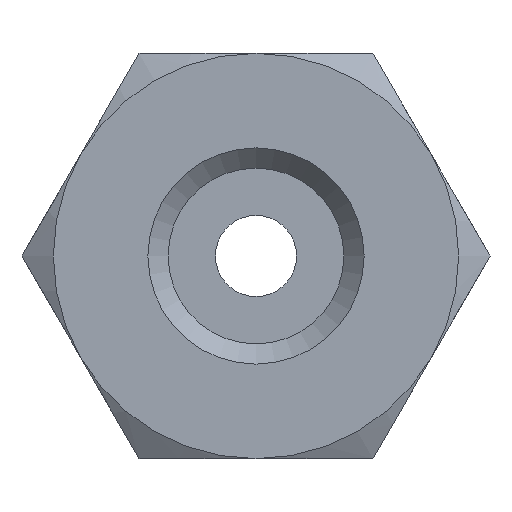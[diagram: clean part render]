
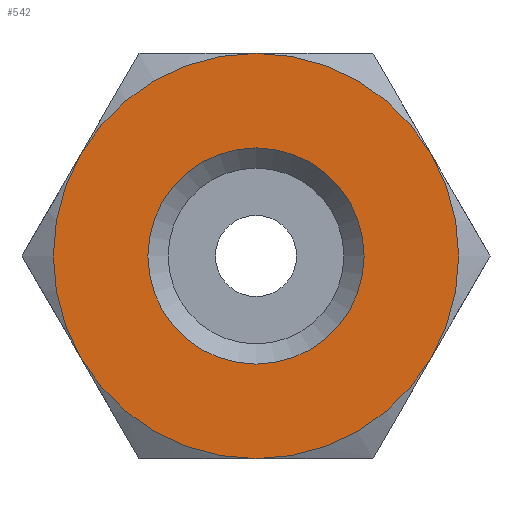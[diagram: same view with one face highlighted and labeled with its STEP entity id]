
A CAD part, front view. The second image highlights one B-rep face of the part: STEP entity #542.
In plain terms, the highlighted planar face has unit normal (0, -1, 0).
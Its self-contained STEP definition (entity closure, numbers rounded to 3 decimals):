
#88=FACE_BOUND('',#150,.T.);
#96=PLANE('',#610);
#113=FACE_OUTER_BOUND('',#149,.T.);
#149=EDGE_LOOP('',(#394,#395,#396,#397,#398,#399));
#150=EDGE_LOOP('',(#400));
#199=CIRCLE('',#609,2.667);
#200=CIRCLE('',#611,5.);
#201=CIRCLE('',#612,5.);
#202=CIRCLE('',#613,5.);
#203=CIRCLE('',#614,5.);
#204=CIRCLE('',#615,5.);
#205=CIRCLE('',#616,5.);
#243=VERTEX_POINT('',#878);
#244=VERTEX_POINT('',#882);
#245=VERTEX_POINT('',#883);
#246=VERTEX_POINT('',#885);
#247=VERTEX_POINT('',#887);
#248=VERTEX_POINT('',#889);
#249=VERTEX_POINT('',#891);
#302=EDGE_CURVE('',#243,#243,#199,.T.);
#303=EDGE_CURVE('',#244,#245,#200,.T.);
#304=EDGE_CURVE('',#245,#246,#201,.T.);
#305=EDGE_CURVE('',#246,#247,#202,.T.);
#306=EDGE_CURVE('',#247,#248,#203,.T.);
#307=EDGE_CURVE('',#248,#249,#204,.T.);
#308=EDGE_CURVE('',#249,#244,#205,.T.);
#394=ORIENTED_EDGE('',*,*,#303,.T.);
#395=ORIENTED_EDGE('',*,*,#304,.T.);
#396=ORIENTED_EDGE('',*,*,#305,.T.);
#397=ORIENTED_EDGE('',*,*,#306,.T.);
#398=ORIENTED_EDGE('',*,*,#307,.T.);
#399=ORIENTED_EDGE('',*,*,#308,.T.);
#400=ORIENTED_EDGE('',*,*,#302,.F.);
#542=ADVANCED_FACE('',(#113,#88),#96,.T.);
#609=AXIS2_PLACEMENT_3D('',#880,#709,#710);
#610=AXIS2_PLACEMENT_3D('',#881,#711,#712);
#611=AXIS2_PLACEMENT_3D('',#884,#713,#714);
#612=AXIS2_PLACEMENT_3D('',#886,#715,#716);
#613=AXIS2_PLACEMENT_3D('',#888,#717,#718);
#614=AXIS2_PLACEMENT_3D('',#890,#719,#720);
#615=AXIS2_PLACEMENT_3D('',#892,#721,#722);
#616=AXIS2_PLACEMENT_3D('',#893,#723,#724);
#709=DIRECTION('center_axis',(0.,-1.,0.));
#710=DIRECTION('ref_axis',(-1.,0.,0.));
#711=DIRECTION('center_axis',(0.,-1.,0.));
#712=DIRECTION('ref_axis',(0.,0.,-1.));
#713=DIRECTION('center_axis',(0.,-1.,0.));
#714=DIRECTION('ref_axis',(1.,0.,0.));
#715=DIRECTION('center_axis',(0.,-1.,0.));
#716=DIRECTION('ref_axis',(1.,0.,0.));
#717=DIRECTION('center_axis',(0.,-1.,0.));
#718=DIRECTION('ref_axis',(1.,0.,0.));
#719=DIRECTION('center_axis',(0.,-1.,0.));
#720=DIRECTION('ref_axis',(1.,0.,0.));
#721=DIRECTION('center_axis',(0.,-1.,0.));
#722=DIRECTION('ref_axis',(1.,0.,0.));
#723=DIRECTION('center_axis',(0.,-1.,0.));
#724=DIRECTION('ref_axis',(1.,0.,0.));
#878=CARTESIAN_POINT('',(2.667,0.,0.));
#880=CARTESIAN_POINT('Origin',(0.,0.,0.));
#881=CARTESIAN_POINT('Origin',(2.167,0.,0.));
#882=CARTESIAN_POINT('',(-4.33,0.,-2.5));
#883=CARTESIAN_POINT('',(0.,0.,-5.));
#884=CARTESIAN_POINT('Origin',(0.,0.,0.));
#885=CARTESIAN_POINT('',(4.33,0.,-2.5));
#886=CARTESIAN_POINT('Origin',(0.,0.,0.));
#887=CARTESIAN_POINT('',(4.33,0.,2.5));
#888=CARTESIAN_POINT('Origin',(0.,0.,0.));
#889=CARTESIAN_POINT('',(0.,0.,5.));
#890=CARTESIAN_POINT('Origin',(0.,0.,0.));
#891=CARTESIAN_POINT('',(-4.33,0.,2.5));
#892=CARTESIAN_POINT('Origin',(0.,0.,0.));
#893=CARTESIAN_POINT('Origin',(0.,0.,0.));
